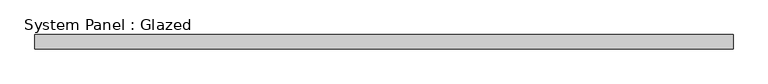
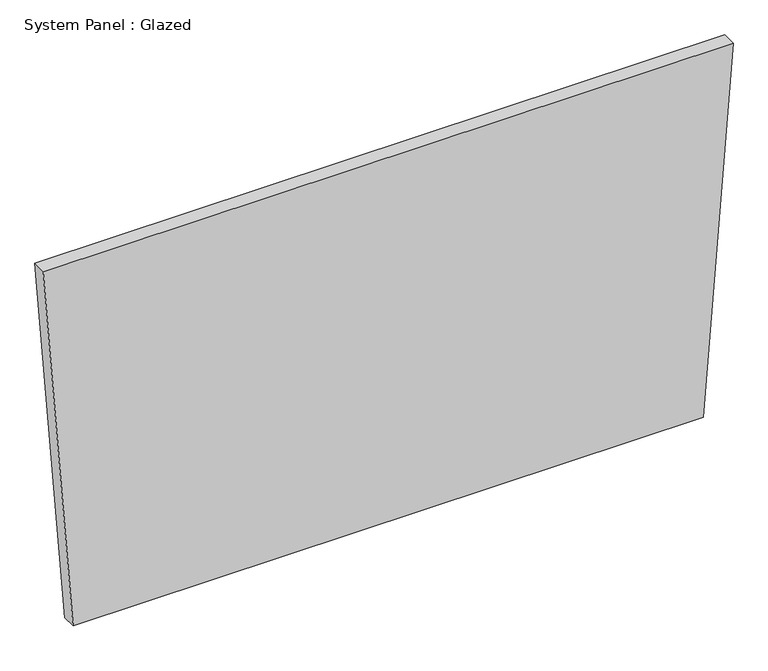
"""IFC4 building model written with IfcOpenShell, lengths in millimetres: plate geometry, System Panel : Glazed."""

from ifc_helpers import new_model, si_unit, frame, origin, place, context, project, spatial, polyline, outline, extrude, source, transform, mapped, element, save


def system_panel_glazed_e0575ccd(model_context):
    return source(origin(), model_context, "Body", "SweptSolid", [
        extrude(outline(polyline([(0.0, -560.4490172), (0.0, 560.4495709), (684.6235915, 613.5863604), (684.6307245, -613.5863604), (0.0, -560.4490172)])), frame((0.0, 19.05, 0.0), z_axis=(0.0, 1.0, 0.0), x_axis=(0.0, 0.0, 1.0)), (0.0, 0.0, 1.0), 25.4),
    ])


if __name__ == "__main__":
    model = new_model("IFC4")
    model_context = context("Model", 3, world=origin())
    ifc_project = project(units=[si_unit("LENGTHUNIT", "METRE", prefix="MILLI")], contexts=[model_context])
    site = spatial("IfcSite", under=ifc_project)
    building = spatial("IfcBuilding", under=site)
    placement = place(None, origin())
    system_panel_glazed_shape = system_panel_glazed_e0575ccd(model_context)
    element("IfcPlate", 1, ObjectType="System Panel : Glazed", at=placement, inside=building, context=model_context, shape_type="MappedRepresentation", body=[
        mapped(system_panel_glazed_shape, transform((0.0, 0.0, 0.0), x_axis=(1.0, 0.0, 0.0), y_axis=(0.0, 1.0, 0.0), z_axis=(0.0, 0.0, 1.0))),
    ])
    save(model, "model.ifc")
